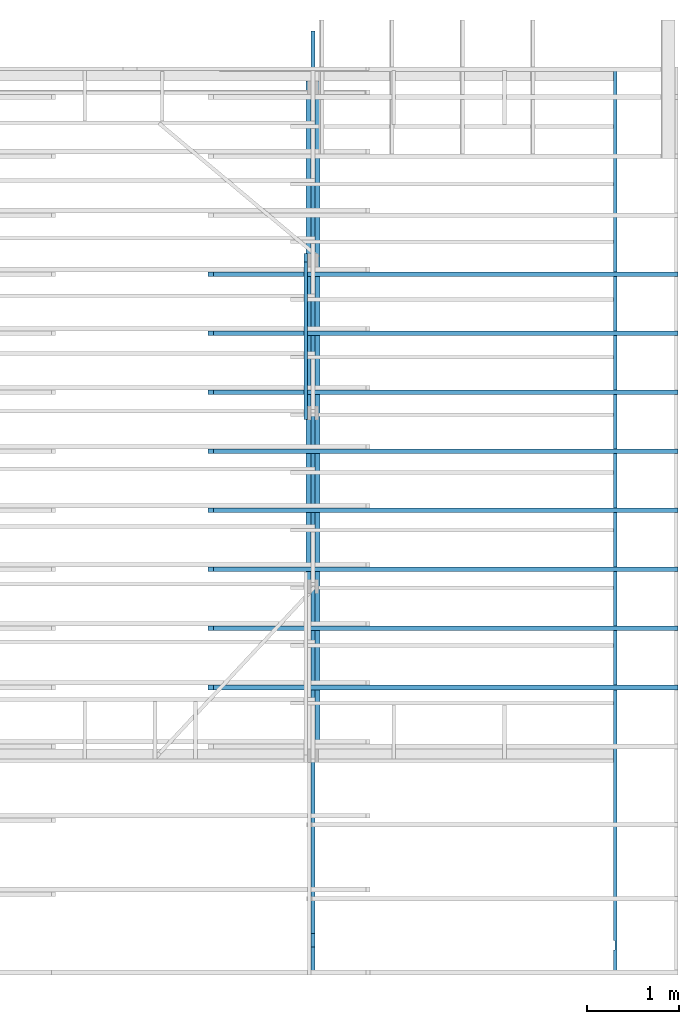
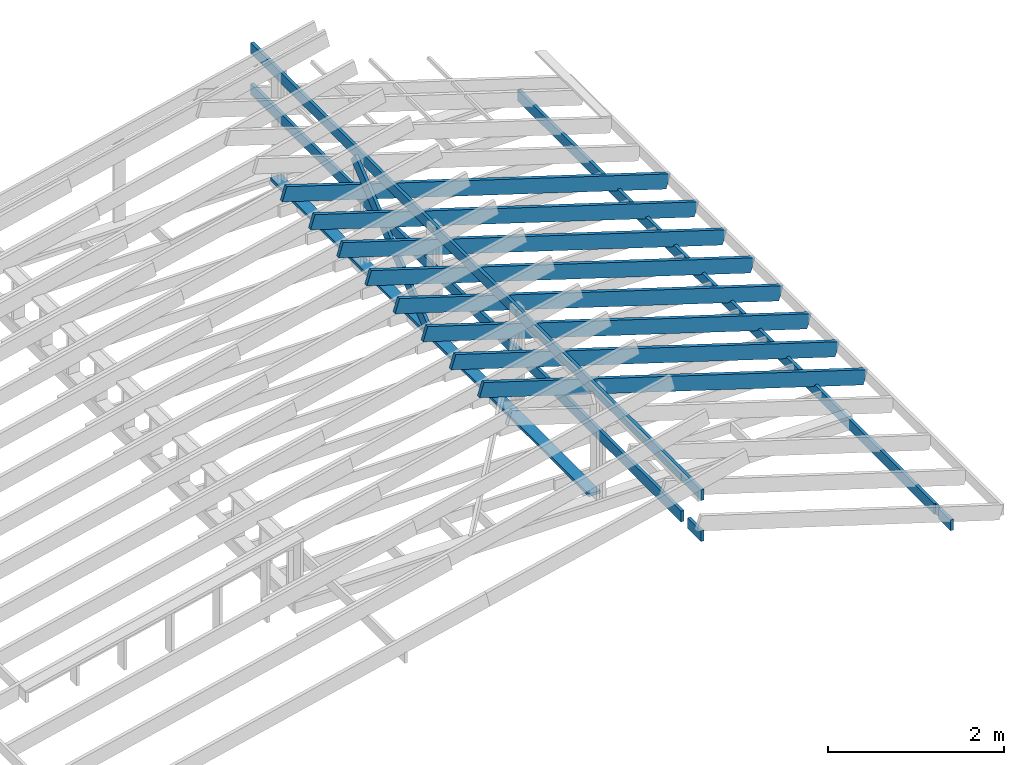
# One storey, part 4 of 6: 13 beams.
"""IFC4 building model written with IfcOpenShell, lengths in millimetres."""

from ifc_helpers import new_model, si_unit, derived_unit, frame, origin_with_axes, place, context, subcontext, project, spatial, polygons, source, transform, mapped, material, type_object, element, save


model = new_model("IFC4")

# Units and contexts
model_context = context("Model", 3, precision=1e-06, world=origin_with_axes())
body_context = subcontext(model_context, "Body", "Model", "MODEL_VIEW")
ifc_project = project(units=[si_unit("LENGTHUNIT", "METRE", prefix="MILLI"), si_unit("AREAUNIT", "SQUARE_METRE"), si_unit("VOLUMEUNIT", "CUBIC_METRE"), si_unit("MASSUNIT", "GRAM", prefix="KILO"), si_unit("ELECTRICVOLTAGEUNIT", "VOLT", prefix="KILO"), si_unit("THERMODYNAMICTEMPERATUREUNIT", "DEGREE_CELSIUS"), si_unit("PRESSUREUNIT", "PASCAL", prefix="MEGA"), si_unit("PLANEANGLEUNIT", "RADIAN"), derived_unit("THERMALCONDUCTANCEUNIT", [(si_unit("POWERUNIT", "WATT"), 1), (si_unit("LENGTHUNIT", "METRE"), -1), (si_unit("THERMODYNAMICTEMPERATUREUNIT", "KELVIN"), -1)]), derived_unit("MASSDENSITYUNIT", [(si_unit("MASSUNIT", "GRAM", prefix="KILO"), 1), (si_unit("VOLUMEUNIT", "CUBIC_METRE"), -1)])], contexts=[model_context])

# Site, building, storey
site_placement = place(None, origin_with_axes())
site = spatial("IfcSite", under=ifc_project, at=site_placement, CompositionType="ELEMENT")
building_placement = place(site_placement, origin_with_axes())
building = spatial("IfcBuilding", under=site, at=building_placement, CompositionType="ELEMENT")
storey_placement = place(building_placement, frame((0.0, 0.0, 2620.0), z_axis=(0.0, 0.0, 1.0), x_axis=(1.0, 0.0, 0.0)))
storey = spatial("IfcBuildingStorey", under=building, at=storey_placement, Name="Кровля", CompositionType="ELEMENT", Elevation=2620.0)

# Beams
ifc_material_1 = material(Name="Древесина жел")
beam_type_1 = type_object("IfcBeamType", Name="Доска 40х150", PredefinedType="BEAM")
shared_shape_1 = source(origin_with_axes(), body_context, "Body", "Tessellation", [
    polygons([(-20.0, 150.0, -370.0000000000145), (-1.0914e-11, 150.0, -370.00000000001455), (-1.0914e-11, 150.0, -270.00000000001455), (-20.0, 150.0, -270.00000000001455), (-20.0, 150.0, 0.0), (20.0, 150.0, 0.0), (20.0, 150.0, -9840.000000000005), (-20.0, 150.0, -9840.000000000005), (-20.0, 0.0, -370.0000000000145), (-20.0, 0.0, -9840.000000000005), (-20.0, 0.0, -270.00000000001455), (-20.0, 0.0, 0.0), (-1.0914e-11, 0.0, -370.00000000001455), (20.0, 0.0, -9840.000000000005), (20.0, 0.0, 0.0), (-1.0914e-11, 0.0, -270.00000000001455)], [[[1, 2, 3, 4, 5, 6, 7, 8]], [[9, 1, 8, 10]], [[4, 11, 12, 5]], [[13, 9, 10, 14, 15, 12, 11, 16]], [[16, 11, 4, 3]], [[13, 16, 3, 2]], [[9, 13, 2, 1]], [[15, 6, 5, 12]], [[6, 15, 14, 7]], [[14, 10, 8, 7]]], closed=True),
])
beam_1_placement = place(storey_placement, frame((10825.000000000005, -2300.00000000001, 0.0), z_axis=(0.0, -1.0, 0.0), x_axis=(0.0, 0.0, 1.0)))
element("IfcBeam", 1, at=beam_1_placement, inside=storey, type_object=beam_type_1, material=ifc_material_1, Name="Балка - Доска 40х150", context=body_context, shape_type="MappedRepresentation", body=[
    mapped(shared_shape_1, transform((0.0, 0.0, 0.0), x_axis=(0.0, -1.0, 0.0), y_axis=(1.0, 0.0, 0.0), z_axis=(0.0, 0.0, 1.0), scale=1.0)),
])
ifc_material_2 = material(Name="Древесина конструктивная")
shared_shape_2 = source(origin_with_axes(), body_context, "Body", "Tessellation", [
    polygons([(7530.000000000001, 7389.999999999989, 2808.4051771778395), (7530.000000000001, 7389.99999999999, 2810.0), (7570.000000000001, 7389.99999999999, 2810.0), (7570.000000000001, 7389.999999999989, 2808.4051771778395), (7610.000000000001, 7389.999999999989, 2808.4051771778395), (7610.000000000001, 7389.99999999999, 2810.0), (7625.0, 7389.99999999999, 2810.0), (7625.0, 7389.99999999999, 2770.0), (7475.0, 7389.99999999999, 2770.0), (7475.0, 7389.99999999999, 2810.0), (7490.000000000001, 7389.99999999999, 2810.0), (7490.000000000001, 7389.999999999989, 2808.4051771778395), (7530.000000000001, 7239.999999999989, 2810.0), (7490.000000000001, 7239.999999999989, 2810.0), (7475.0, 149.9999999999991, 2810.0), (7625.0, 149.9999999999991, 2810.0), (7610.000000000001, 7239.999999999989, 2810.0), (7570.000000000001, 7239.999999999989, 2810.0), (7530.0, 1984.9999999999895, 2810.0), (7530.0, 1834.9999999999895, 2810.0), (7490.0, 1834.9999999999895, 2810.0), (7490.0, 1984.9999999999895, 2810.0), (7610.0, 1984.9999999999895, 2810.0), (7610.0, 1834.9999999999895, 2810.0), (7570.0, 1834.9999999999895, 2810.0), (7570.0, 1984.9999999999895, 2810.0), (7530.0, 3864.9999999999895, 2810.0), (7530.0, 3714.9999999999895, 2810.0), (7490.0, 3714.9999999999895, 2810.0), (7490.0, 3864.9999999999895, 2810.0), (7610.0, 3864.9999999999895, 2810.0), (7610.0, 3714.9999999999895, 2810.0), (7570.0, 3714.9999999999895, 2810.0), (7570.0, 3864.9999999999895, 2810.0), (7530.000000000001, 5519.999999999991, 2810.0), (7530.000000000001, 5369.999999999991, 2810.0), (7490.000000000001, 5369.999999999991, 2810.0), (7490.000000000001, 5519.999999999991, 2810.0), (7610.000000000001, 5519.999999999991, 2810.0), (7610.000000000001, 5369.999999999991, 2810.0), (7570.000000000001, 5369.999999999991, 2810.0), (7570.000000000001, 5519.999999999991, 2810.0), (7570.000000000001, 7239.999999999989, 2808.4051771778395), (7610.000000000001, 7239.999999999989, 2808.4051771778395), (7490.000000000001, 7239.999999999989, 2808.4051771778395), (7530.000000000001, 7239.999999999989, 2808.4051771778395), (7610.000000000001, 5369.999999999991, 2808.4051771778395), (7570.000000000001, 5369.999999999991, 2808.4051771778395), (7570.000000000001, 5519.999999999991, 2808.4051771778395), (7610.000000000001, 5519.999999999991, 2808.4051771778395), (7530.000000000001, 5369.999999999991, 2808.4051771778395), (7490.000000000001, 5369.999999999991, 2808.4051771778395), (7490.000000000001, 5519.999999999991, 2808.4051771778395), (7530.000000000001, 5519.999999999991, 2808.4051771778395), (7610.0, 3714.9999999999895, 2808.4051771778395), (7570.0, 3714.9999999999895, 2808.4051771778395), (7570.0, 3864.9999999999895, 2808.4051771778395), (7610.0, 3864.9999999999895, 2808.4051771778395), (7530.0, 3714.9999999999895, 2808.4051771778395), (7490.0, 3714.9999999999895, 2808.4051771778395), (7490.0, 3864.9999999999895, 2808.4051771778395), (7530.0, 3864.9999999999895, 2808.4051771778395), (7610.0, 1834.9999999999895, 2808.4051771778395), (7570.0, 1834.9999999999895, 2808.4051771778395), (7570.0, 1984.9999999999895, 2808.4051771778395), (7610.0, 1984.9999999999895, 2808.4051771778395), (7530.0, 1834.9999999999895, 2808.4051771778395), (7490.0, 1834.9999999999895, 2808.4051771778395), (7490.0, 1984.9999999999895, 2808.4051771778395), (7530.0, 1984.9999999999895, 2808.4051771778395), (7625.0, 149.9999999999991, 2770.0), (7475.0, 149.9999999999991, 2770.0)], [[[1, 2, 3, 4, 5, 6, 7, 8, 9, 10, 11, 12]], [[2, 13, 14, 11, 10, 15, 16, 7, 6, 17, 18, 3], [19, 20, 21, 22], [23, 24, 25, 26], [27, 28, 29, 30], [31, 32, 33, 34], [35, 36, 37, 38], [39, 40, 41, 42]], [[5, 4, 43, 44]], [[18, 17, 44, 43]], [[3, 18, 43, 4]], [[17, 6, 5, 44]], [[1, 12, 45, 46]], [[14, 13, 46, 45]], [[11, 14, 45, 12]], [[13, 2, 1, 46]], [[41, 40, 47, 48]], [[42, 41, 48, 49]], [[39, 42, 49, 50]], [[40, 39, 50, 47]], [[37, 36, 51, 52]], [[38, 37, 52, 53]], [[35, 38, 53, 54]], [[36, 35, 54, 51]], [[33, 32, 55, 56]], [[34, 33, 56, 57]], [[31, 34, 57, 58]], [[32, 31, 58, 55]], [[29, 28, 59, 60]], [[30, 29, 60, 61]], [[27, 30, 61, 62]], [[28, 27, 62, 59]], [[25, 24, 63, 64]], [[26, 25, 64, 65]], [[23, 26, 65, 66]], [[24, 23, 66, 63]], [[21, 20, 67, 68]], [[22, 21, 68, 69]], [[19, 22, 69, 70]], [[20, 19, 70, 67]], [[8, 7, 16, 71]], [[9, 8, 71, 72]], [[10, 9, 72, 15]], [[71, 16, 15, 72]], [[47, 50, 49, 48]], [[51, 54, 53, 52]], [[55, 58, 57, 56]], [[59, 62, 61, 60]], [[63, 66, 65, 64]], [[67, 70, 69, 68]]], closed=True),
])
beam_2_placement = place(storey_placement, frame((7475.0, 7389.99999999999, 150.0), z_axis=(0.0, 1.0, 0.0), x_axis=(-1.0, 0.0, 0.0)))
element("IfcBeam", 2, at=beam_2_placement, inside=storey, type_object=beam_type_1, material=ifc_material_2, Name="Балка - Доска 40х150", context=body_context, shape_type="MappedRepresentation", body=[
    mapped(shared_shape_2, transform((7475.0, -2770.0, -7389.99999999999), x_axis=(-1.0, 0.0, 0.0), y_axis=(0.0, 0.0, 1.0), z_axis=(0.0, 1.0, 0.0), scale=1.0)),
])
shared_shape_3 = source(origin_with_axes(), body_context, "Body", "Tessellation", [
    polygons([(-20.0, 0.0, -449.9999999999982), (-20.0, 116.59482282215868, -449.9999999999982), (-20.000000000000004, 116.59482282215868, -299.9999999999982), (-20.0, 0.0, -299.9999999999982), (-20.0, 0.0, 0.0), (-20.0, 150.0, 0.0), (-20.0, 150.0, -10229.999999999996), (-20.0, 0.0, -10229.999999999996), (-14.999999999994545, 0.0, -299.9999999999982), (-14.99999999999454, 0.0, -449.9999999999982), (20.0, 0.0, -10229.999999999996), (20.0, 0.0, 0.0), (-14.99999999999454, 116.59482282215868, -449.9999999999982), (-14.999999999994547, 116.59482282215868, -299.9999999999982), (20.0, 150.0, 0.0), (20.0, 150.0, -10229.999999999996)], [[[1, 2, 3, 4, 5, 6, 7, 8]], [[9, 10, 1, 8, 11, 12, 5, 4]], [[3, 2, 13, 14]], [[9, 4, 3, 14]], [[1, 10, 13, 2]], [[10, 9, 14, 13]], [[12, 15, 6, 5]], [[6, 15, 16, 7]], [[11, 8, 7, 16]], [[15, 12, 11, 16]]], closed=True),
])
beam_3_placement = place(storey_placement, frame((7550.0, -2300.0000000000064, 1563.4051771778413), z_axis=(0.0, -1.0, 0.0), x_axis=(0.0, 0.0, 1.0)))
element("IfcBeam", 3, at=beam_3_placement, inside=storey, type_object=beam_type_1, material=ifc_material_1, Name="Балка - Доска 40х150", context=body_context, shape_type="MappedRepresentation", body=[
    mapped(shared_shape_3, transform((0.0, 0.0, 0.0), x_axis=(0.0, -1.0, 0.0), y_axis=(1.0, 0.0, 0.0), z_axis=(0.0, 0.0, 1.0), scale=1.0)),
])
shared_shape_4 = source(origin_with_axes(), body_context, "Body", "Tessellation", [
    polygons([(20.0, 150.0, -450.00000000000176), (20.0, 0.0, -450.00000000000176), (20.0, 0.0, -10229.999999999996), (20.0, 150.0, -10229.999999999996), (-20.0, 150.0, -450.0000000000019), (-20.0, 150.0, -10229.999999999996), (-20.0, 0.0, -450.00000000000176), (-20.0, 0.0, -10229.999999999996)], [[[1, 2, 3, 4]], [[5, 1, 4, 6]], [[7, 5, 6, 8]], [[2, 7, 8, 3]], [[7, 2, 1, 5]], [[3, 8, 6, 4]]], closed=True),
    polygons([(20.0, 0.0, -300.0000000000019), (20.0, 150.0, -300.0000000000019), (20.0, 150.0, 0.0), (20.0, 0.0, 0.0), (-20.0, 0.0, -300.0000000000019), (-20.0, 150.0, -300.0000000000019), (-20.0, 150.0, 0.0), (-20.0, 0.0, 0.0)], [[[1, 2, 3, 4]], [[1, 5, 6, 2]], [[2, 6, 7, 3]], [[4, 3, 7, 8]], [[5, 1, 4, 8]], [[6, 5, 8, 7]]], closed=True),
])
beam_4_placement = place(storey_placement, frame((7550.0, -2300.00000000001, 994.7063906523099), z_axis=(0.0, -1.0, 0.0), x_axis=(0.0, 0.0, 1.0)))
element("IfcBeam", 4, at=beam_4_placement, inside=storey, type_object=beam_type_1, material=ifc_material_1, Name="Балка - Доска 40х150", context=body_context, shape_type="MappedRepresentation", body=[
    mapped(shared_shape_4, transform((0.0, 0.0, 0.0), x_axis=(0.0, -1.0, 0.0), y_axis=(1.0, 0.0, 0.0), z_axis=(0.0, 0.0, 1.0), scale=1.0)),
])
shared_shape_5 = source(origin_with_axes(), body_context, "Body", "Tessellation", [
    polygons([(14.999999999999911, 2.062472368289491, -2205.119012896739), (-2e-15, 2.06247236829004, -2205.11901289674), (0.0, 149.99999999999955, -2205.11901289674), (40.0, 150.0, -2205.11901289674), (40.0, 0.0, -2205.119012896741), (14.99999999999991, -2.31e-13, -2205.11901289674), (1e-15, 3e-14, -2202.6038836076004), (0.0, 0.0, 0.0), (0.0, 149.99999999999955, -9.09e-13), (14.999999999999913, 9.09e-13, -2202.6038836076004), (40.0, 0.0, 0.0), (40.0, 149.99999999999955, -9.09e-13)], [[[1, 2, 3, 4, 5, 6]], [[2, 7, 8, 9, 3]], [[7, 10, 6, 5, 11, 8]], [[6, 10, 1]], [[10, 7, 2, 1]], [[9, 12, 4, 3]], [[12, 11, 5, 4]], [[11, 12, 9, 8]]], closed=True),
])
beam_5_placement = place(storey_placement, frame((7490.000000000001, 5519.999999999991, 1586.653029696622), z_axis=(0.0, 0.773257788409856, 0.634091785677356), x_axis=(0.0, -0.634091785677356, 0.773257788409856)))
element("IfcBeam", 5, at=beam_5_placement, inside=storey, type_object=beam_type_1, material=ifc_material_1, Name="Балка - Доска 40х150", context=body_context, shape_type="MappedRepresentation", body=[
    mapped(shared_shape_5, transform((0.0, 0.0, 0.0), x_axis=(0.0, -1.0, 0.0), y_axis=(1.0, 0.0, 0.0), z_axis=(0.0, 0.0, 1.0), scale=1.0)),
])
ifc_material_3 = material(Name="Древесина оранж")
beam_type_2 = type_object("IfcBeamType", Name="Доска 50х200", PredefinedType="BEAM")
shared_shape_6 = source(origin_with_axes(), body_context, "Body", "Tessellation", [
    polygons([(-8e-15, -1.99e-13, -4607.7351247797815), (-2.274e-12, 22.174739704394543, -4600.75673698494), (-1.819e-12, 34.182184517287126, -4638.911962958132), (-8e-15, -2.04e-13, -4649.669092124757), (0.0, 0.0, -5278.678602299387), (-2.8e-14, 200.0000000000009, -5278.678602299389), (-2.8e-14, 199.9999999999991, -9.09e-13), (0.0, 0.0, 0.0), (-8e-15, -1.21e-13, -1099.4031715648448), (-1.14e-13, 9.464856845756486, -1129.4789918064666), (-8e-15, -1.22e-13, -1132.4575810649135), (-50.00000000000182, 22.174739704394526, -4600.75673698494), (-50.0, -9.9e-14, -4607.7351247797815), (-50.0, 0.0, 0.0), (-50.00000000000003, 199.9999999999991, -9.09e-13), (-50.00000000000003, 200.0000000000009, -5278.678602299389), (-50.0, 0.0, -5278.678602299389), (-50.0, -1e-13, -4649.669092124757), (-50.000000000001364, 34.1821845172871, -4638.911962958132), (-14.63383155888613, 2.8e-14, -1132.4575810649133)], [[[1, 2, 3, 4, 5, 6, 7, 8, 9, 10, 11]], [[12, 13, 14, 15, 16, 17, 18, 19]], [[13, 1, 11, 20, 9, 8, 14]], [[4, 18, 17, 5]], [[20, 11, 10]], [[9, 20, 10]], [[18, 4, 3, 19]], [[12, 19, 3, 2]], [[1, 13, 12, 2]], [[5, 17, 16, 6]], [[15, 7, 6, 16]], [[8, 7, 15, 14]]], closed=True),
])
beam_6_placement = place(storey_placement, frame((6409.770627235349, 789.9999999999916, 1509.9312603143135), z_axis=(-0.953880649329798, 1e-15, 0.300186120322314), x_axis=(0.300186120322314, 0.0, 0.953880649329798)))
element("IfcBeam", 6, at=beam_6_placement, inside=storey, type_object=beam_type_2, material=ifc_material_3, Name="Балка - Доска 50х200", context=body_context, shape_type="MappedRepresentation", body=[
    mapped(shared_shape_6, transform((0.0, 0.0, 0.0), x_axis=(0.0, -1.0, 0.0), y_axis=(1.0, 0.0, 0.0), z_axis=(0.0, 0.0, 1.0), scale=1.0)),
])
shared_shape_7 = source(origin_with_axes(), body_context, "Body", "Tessellation", [
    polygons([(-8e-15, -2.13e-13, -4607.735124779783), (-1.364e-12, 22.174739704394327, -4600.75673698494), (-1.364e-12, 34.1821845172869, -4638.911962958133), (-8e-15, -2.04e-13, -4649.669092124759), (0.0, 0.0, -5278.678602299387), (-2.8e-14, 200.0000000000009, -5278.678602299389), (-2.8e-14, 199.9999999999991, -9.09e-13), (0.0, 0.0, 0.0), (-50.00000000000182, 22.17473970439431, -4600.75673698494), (-50.0, -9.9e-14, -4607.735124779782), (-50.0, -2.5e-14, -827.3256254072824), (-49.999999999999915, 21.26600652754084, -820.6332158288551), (-50.0, -2.4e-14, -794.2884346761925), (-50.0, 0.0, 0.0), (-50.00000000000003, 199.9999999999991, -9.09e-13), (-50.00000000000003, 200.0000000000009, -5278.678602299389), (-50.0, 0.0, -5278.678602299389), (-50.0, -1e-13, -4649.669092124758), (-50.000000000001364, 34.182184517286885, -4638.911962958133), (-29.374208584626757, 8.5e-14, -807.1608103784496)], [[[1, 2, 3, 4, 5, 6, 7, 8]], [[9, 10, 11, 12, 13, 14, 15, 16, 17, 18, 19]], [[10, 1, 8, 14, 13, 20, 11]], [[4, 18, 17, 5]], [[20, 13, 12]], [[11, 20, 12]], [[18, 4, 3, 19]], [[9, 19, 3, 2]], [[1, 10, 9, 2]], [[5, 17, 16, 6]], [[15, 7, 6, 16]], [[8, 7, 15, 14]]], closed=True),
])
beam_7_placement = place(storey_placement, frame((6409.770627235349, 1429.9999999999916, 1509.9312603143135), z_axis=(-0.953880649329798, 1e-15, 0.300186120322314), x_axis=(0.300186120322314, 0.0, 0.953880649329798)))
element("IfcBeam", 7, at=beam_7_placement, inside=storey, type_object=beam_type_2, material=ifc_material_3, Name="Балка - Доска 50х200", context=body_context, shape_type="MappedRepresentation", body=[
    mapped(shared_shape_7, transform((0.0, 0.0, 0.0), x_axis=(0.0, -1.0, 0.0), y_axis=(1.0, 0.0, 0.0), z_axis=(0.0, 0.0, 1.0), scale=1.0)),
])
shared_shape_8 = source(origin_with_axes(), body_context, "Body", "Tessellation", [
    polygons([(-8e-15, -1.99e-13, -4607.735124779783), (-1.819e-12, 22.17473970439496, -4600.75673698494), (-1.819e-12, 34.18218451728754, -4638.911962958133), (-8e-15, -1.9e-13, -4649.669092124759), (0.0, 0.0, -5278.678602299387), (-2.8e-14, 200.0000000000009, -5278.678602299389), (-2.8e-14, 199.9999999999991, -9.09e-13), (0.0, 0.0, 0.0), (-50.00000000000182, 22.174739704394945, -4600.75673698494), (-50.0, -9.9e-14, -4607.735124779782), (-50.0, 0.0, 0.0), (-50.00000000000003, 199.9999999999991, -9.09e-13), (-50.00000000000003, 200.0000000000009, -5278.678602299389), (-50.0, 0.0, -5278.678602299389), (-50.0, -1e-13, -4649.669092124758), (-50.00000000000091, 34.182184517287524, -4638.911962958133)], [[[1, 2, 3, 4, 5, 6, 7, 8]], [[9, 10, 11, 12, 13, 14, 15, 16]], [[10, 1, 8, 11]], [[4, 15, 14, 5]], [[15, 4, 3, 16]], [[9, 16, 3, 2]], [[1, 10, 9, 2]], [[5, 14, 13, 6]], [[12, 7, 6, 13]], [[8, 7, 12, 11]]], closed=True),
])
beam_8_placement = place(storey_placement, frame((6409.770627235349, 2069.999999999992, 1509.9312603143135), z_axis=(-0.953880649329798, 1e-15, 0.300186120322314), x_axis=(0.300186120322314, 0.0, 0.953880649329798)))
element("IfcBeam", 8, at=beam_8_placement, inside=storey, type_object=beam_type_2, material=ifc_material_3, Name="Балка - Доска 50х200", context=body_context, shape_type="MappedRepresentation", body=[
    mapped(shared_shape_8, transform((0.0, 0.0, 0.0), x_axis=(0.0, -1.0, 0.0), y_axis=(1.0, 0.0, 0.0), z_axis=(0.0, 0.0, 1.0), scale=1.0)),
])
shared_shape_9 = source(origin_with_axes(), body_context, "Body", "Tessellation", [
    polygons([(-8e-15, -1.99e-13, -4607.7351247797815), (-1.819e-12, 22.174739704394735, -4600.75673698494), (-1.819e-12, 34.18218451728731, -4638.911962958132), (-8e-15, -2.04e-13, -4649.669092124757), (0.0, 0.0, -5278.678602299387), (-2.8e-14, 200.0000000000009, -5278.678602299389), (-2.8e-14, 199.9999999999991, -9.09e-13), (0.0, 0.0, 0.0), (-50.00000000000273, 22.174739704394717, -4600.75673698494), (-50.0, -9.9e-14, -4607.735124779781), (-50.0, 0.0, 0.0), (-50.00000000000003, 199.9999999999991, -9.09e-13), (-50.00000000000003, 200.0000000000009, -5278.678602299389), (-50.0, 0.0, -5278.678602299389), (-50.0, -1e-13, -4649.669092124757), (-50.00000000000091, 34.1821845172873, -4638.911962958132)], [[[1, 2, 3, 4, 5, 6, 7, 8]], [[9, 10, 11, 12, 13, 14, 15, 16]], [[10, 1, 8, 11]], [[4, 15, 14, 5]], [[15, 4, 3, 16]], [[9, 16, 3, 2]], [[1, 10, 9, 2]], [[5, 14, 13, 6]], [[12, 7, 6, 13]], [[8, 7, 12, 11]]], closed=True),
])
beam_9_placement = place(storey_placement, frame((6409.770627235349, 2709.999999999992, 1509.9312603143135), z_axis=(-0.953880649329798, 1e-15, 0.300186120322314), x_axis=(0.300186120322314, 0.0, 0.953880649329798)))
element("IfcBeam", 9, at=beam_9_placement, inside=storey, type_object=beam_type_2, material=ifc_material_3, Name="Балка - Доска 50х200", context=body_context, shape_type="MappedRepresentation", body=[
    mapped(shared_shape_9, transform((0.0, 0.0, 0.0), x_axis=(0.0, -1.0, 0.0), y_axis=(1.0, 0.0, 0.0), z_axis=(0.0, 0.0, 1.0), scale=1.0)),
])
shared_shape_10 = source(origin_with_axes(), body_context, "Body", "Tessellation", [
    polygons([(-8e-15, -1.99e-13, -4607.7351247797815), (-1.819e-12, 22.17473970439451, -4600.75673698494), (-1.819e-12, 34.182184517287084, -4638.911962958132), (-8e-15, -2.04e-13, -4649.669092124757), (0.0, 0.0, -5278.678602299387), (-2.8e-14, 200.0000000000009, -5278.678602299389), (-2.8e-14, 199.9999999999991, -9.09e-13), (0.0, 0.0, 0.0), (-50.00000000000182, 22.174739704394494, -4600.75673698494), (-50.0, -9.9e-14, -4607.735124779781), (-50.0, 0.0, 0.0), (-50.00000000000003, 199.9999999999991, -9.09e-13), (-50.00000000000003, 200.0000000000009, -5278.678602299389), (-50.0, 0.0, -5278.678602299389), (-50.0, -1e-13, -4649.669092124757), (-50.00000000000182, 34.18218451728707, -4638.911962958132)], [[[1, 2, 3, 4, 5, 6, 7, 8]], [[9, 10, 11, 12, 13, 14, 15, 16]], [[10, 1, 8, 11]], [[4, 15, 14, 5]], [[15, 4, 3, 16]], [[9, 16, 3, 2]], [[1, 10, 9, 2]], [[5, 14, 13, 6]], [[12, 7, 6, 13]], [[8, 7, 12, 11]]], closed=True),
])
beam_10_placement = place(storey_placement, frame((6409.770627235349, 3349.999999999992, 1509.9312603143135), z_axis=(-0.953880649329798, 1e-15, 0.300186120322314), x_axis=(0.300186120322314, 0.0, 0.953880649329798)))
element("IfcBeam", 10, at=beam_10_placement, inside=storey, type_object=beam_type_2, material=ifc_material_3, Name="Балка - Доска 50х200", context=body_context, shape_type="MappedRepresentation", body=[
    mapped(shared_shape_10, transform((0.0, 0.0, 0.0), x_axis=(0.0, -1.0, 0.0), y_axis=(1.0, 0.0, 0.0), z_axis=(0.0, 0.0, 1.0), scale=1.0)),
])
shared_shape_11 = source(origin_with_axes(), body_context, "Body", "Tessellation", [
    polygons([(-8e-15, -1.99e-13, -4607.7351247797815), (-2.728e-12, 22.174739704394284, -4600.75673698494), (-3.638e-12, 34.182184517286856, -4638.911962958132), (-8e-15, -2.04e-13, -4649.669092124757), (0.0, 0.0, -5278.678602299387), (-2.8e-14, 200.0000000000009, -5278.678602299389), (-2.8e-14, 199.9999999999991, -9.09e-13), (0.0, 0.0, 0.0), (-50.00000000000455, 22.174739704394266, -4600.75673698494), (-50.0, -9.9e-14, -4607.7351247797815), (-50.0, 0.0, 0.0), (-50.00000000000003, 199.9999999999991, -9.09e-13), (-50.00000000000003, 200.0000000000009, -5278.678602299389), (-50.0, 0.0, -5278.678602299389), (-50.0, -1e-13, -4649.669092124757), (-50.00000000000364, 34.18218451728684, -4638.911962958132)], [[[1, 2, 3, 4, 5, 6, 7, 8]], [[9, 10, 11, 12, 13, 14, 15, 16]], [[10, 1, 8, 11]], [[4, 15, 14, 5]], [[15, 4, 3, 16]], [[9, 16, 3, 2]], [[1, 10, 9, 2]], [[5, 14, 13, 6]], [[12, 7, 6, 13]], [[8, 7, 12, 11]]], closed=True),
])
beam_11_placement = place(storey_placement, frame((6409.770627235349, 3989.999999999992, 1509.9312603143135), z_axis=(-0.953880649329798, 1e-15, 0.300186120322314), x_axis=(0.300186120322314, 0.0, 0.953880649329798)))
element("IfcBeam", 11, at=beam_11_placement, inside=storey, type_object=beam_type_2, material=ifc_material_3, Name="Балка - Доска 50х200", context=body_context, shape_type="MappedRepresentation", body=[
    mapped(shared_shape_11, transform((0.0, 0.0, 0.0), x_axis=(0.0, -1.0, 0.0), y_axis=(1.0, 0.0, 0.0), z_axis=(0.0, 0.0, 1.0), scale=1.0)),
])
shared_shape_12 = source(origin_with_axes(), body_context, "Body", "Tessellation", [
    polygons([(-8e-15, -1.99e-13, -4607.735124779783), (-2.728e-12, 22.17473970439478, -4600.756736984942), (-3.638e-12, 34.182184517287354, -4638.911962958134), (-8e-15, -1.9e-13, -4649.669092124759), (0.0, 0.0, -5278.678602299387), (-2.8e-14, 200.0000000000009, -5278.678602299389), (-2.8e-14, 199.9999999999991, -9.09e-13), (0.0, 0.0, 0.0), (-50.00000000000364, 22.17473970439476, -4600.756736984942), (-50.0, -9.9e-14, -4607.735124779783), (-50.0, 0.0, 0.0), (-50.00000000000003, 199.9999999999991, -9.09e-13), (-50.00000000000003, 200.0000000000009, -5278.678602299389), (-50.0, 0.0, -5278.678602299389), (-50.0, -1e-13, -4649.669092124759), (-50.00000000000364, 34.18218451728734, -4638.911962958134)], [[[1, 2, 3, 4, 5, 6, 7, 8]], [[9, 10, 11, 12, 13, 14, 15, 16]], [[10, 1, 8, 11]], [[4, 15, 14, 5]], [[15, 4, 3, 16]], [[9, 16, 3, 2]], [[1, 10, 9, 2]], [[5, 14, 13, 6]], [[12, 7, 6, 13]], [[8, 7, 12, 11]]], closed=True),
])
beam_12_placement = place(storey_placement, frame((6409.770627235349, 4629.999999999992, 1509.9312603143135), z_axis=(-0.953880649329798, 1e-15, 0.300186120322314), x_axis=(0.300186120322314, 0.0, 0.953880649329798)))
element("IfcBeam", 12, at=beam_12_placement, inside=storey, type_object=beam_type_2, material=ifc_material_3, Name="Балка - Доска 50х200", context=body_context, shape_type="MappedRepresentation", body=[
    mapped(shared_shape_12, transform((0.0, 0.0, 0.0), x_axis=(0.0, -1.0, 0.0), y_axis=(1.0, 0.0, 0.0), z_axis=(0.0, 0.0, 1.0), scale=1.0)),
])
shared_shape_13 = source(origin_with_axes(), body_context, "Body", "Tessellation", [
    polygons([(-8e-15, -1.99e-13, -4607.735124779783), (-3.638e-12, 22.174739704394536, -4600.756736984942), (-3.638e-12, 34.18218451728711, -4638.911962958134), (-8e-15, -1.9e-13, -4649.669092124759), (0.0, 0.0, -5278.678602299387), (-2.8e-14, 200.0000000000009, -5278.678602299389), (-2.7e-14, 199.99999999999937, -1062.8771088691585), (-2.27e-13, 189.8940066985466, -1030.7639937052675), (-2.6e-14, 199.99999999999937, -1027.583638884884), (-2.8e-14, 199.9999999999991, -9.09e-13), (0.0, 0.0, 0.0), (-12.919840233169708, 199.9999999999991, -1027.5836388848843), (-50.00000000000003, 200.0000000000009, -5278.678602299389), (-50.00000000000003, 199.9999999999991, -9.09e-13), (-50.00000000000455, 22.17473970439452, -4600.756736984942), (-50.0, -9.9e-14, -4607.735124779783), (-50.0, 0.0, 0.0), (-50.0, 0.0, -5278.678602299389), (-50.0, -1e-13, -4649.669092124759), (-50.00000000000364, 34.1821845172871, -4638.911962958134)], [[[1, 2, 3, 4, 5, 6, 7, 8, 9, 10, 11]], [[12, 7, 6, 13, 14, 10, 9]], [[15, 16, 17, 14, 13, 18, 19, 20]], [[16, 1, 11, 17]], [[4, 19, 18, 5]], [[12, 9, 8]], [[7, 12, 8]], [[19, 4, 3, 20]], [[15, 20, 3, 2]], [[1, 16, 15, 2]], [[5, 18, 13, 6]], [[11, 10, 14, 17]]], closed=True),
])
beam_13_placement = place(storey_placement, frame((6409.770627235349, 5269.999999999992, 1509.9312603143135), z_axis=(-0.953880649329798, 1e-15, 0.300186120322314), x_axis=(0.300186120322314, 0.0, 0.953880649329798)))
element("IfcBeam", 13, at=beam_13_placement, inside=storey, type_object=beam_type_2, material=ifc_material_3, Name="Балка - Доска 50х200", context=body_context, shape_type="MappedRepresentation", body=[
    mapped(shared_shape_13, transform((0.0, 0.0, 0.0), x_axis=(0.0, -1.0, 0.0), y_axis=(1.0, 0.0, 0.0), z_axis=(0.0, 0.0, 1.0), scale=1.0)),
])

save(model, "model.ifc")
